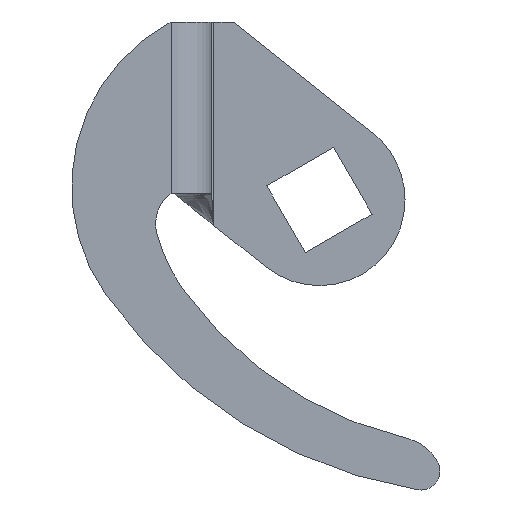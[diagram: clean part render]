
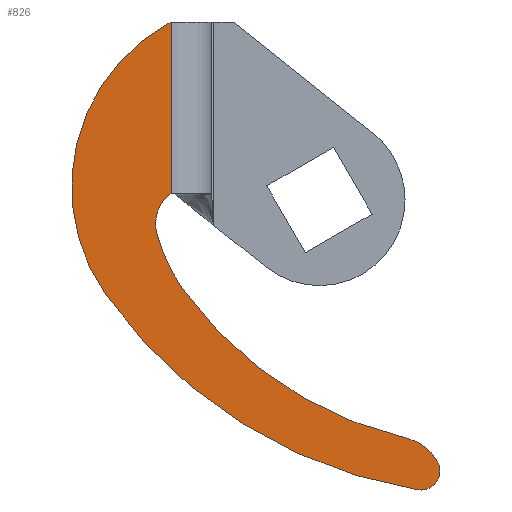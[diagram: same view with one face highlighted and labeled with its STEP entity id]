
A CAD part, front view. The second image highlights one B-rep face of the part: STEP entity #826.
In plain terms, the highlighted planar face has unit normal (0, -1, 0).
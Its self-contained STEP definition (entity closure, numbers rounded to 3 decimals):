
#7 = EDGE_CURVE ( 'NONE', #72, #220, #650, .T. ) ;
#16 = ORIENTED_EDGE ( 'NONE', *, *, #940, .T. ) ;
#27 = CARTESIAN_POINT ( 'NONE',  ( 0.516, -22., -17.189 ) ) ;
#47 = ORIENTED_EDGE ( 'NONE', *, *, #280, .T. ) ;
#61 = CARTESIAN_POINT ( 'NONE',  ( -25.75, -22., 12. ) ) ;
#63 = CARTESIAN_POINT ( 'NONE',  ( -21.5, -22., 30. ) ) ;
#65 = AXIS2_PLACEMENT_3D ( 'NONE', #455, #71, #793 ) ;
#71 = DIRECTION ( 'NONE',  ( 0., 1., 0. ) ) ;
#72 = VERTEX_POINT ( 'NONE', #542 ) ;
#75 = CARTESIAN_POINT ( 'NONE',  ( -16.591, -22., 12.662 ) ) ;
#76 = DIRECTION ( 'NONE',  ( 0., -1., 0. ) ) ;
#81 = DIRECTION ( 'NONE',  ( 1., 0., 0. ) ) ;
#87 = DIRECTION ( 'NONE',  ( -1., 0., 0. ) ) ;
#95 = ORIENTED_EDGE ( 'NONE', *, *, #380, .T. ) ;
#126 = VECTOR ( 'NONE', #414, 1000. ) ;
#127 = EDGE_LOOP ( 'NONE', ( #675, #320, #95, #173, #47, #16, #626, #424, #377, #679 ) ) ;
#130 = AXIS2_PLACEMENT_3D ( 'NONE', #694, #703, #710 ) ;
#140 = VERTEX_POINT ( 'NONE', #638 ) ;
#159 = CARTESIAN_POINT ( 'NONE',  ( -27.238, -22., 7.785 ) ) ;
#160 = CIRCLE ( 'NONE', #772, 2. ) ;
#162 = CIRCLE ( 'NONE', #281, 50. ) ;
#169 = EDGE_CURVE ( 'NONE', #220, #769, #673, .T. ) ;
#170 = DIRECTION ( 'NONE',  ( 1., 0., 0. ) ) ;
#172 = CIRCLE ( 'NONE', #437, 2. ) ;
#173 = ORIENTED_EDGE ( 'NONE', *, *, #983, .F. ) ;
#175 = CARTESIAN_POINT ( 'NONE',  ( -32.612, -22., 1.355 ) ) ;
#210 = CARTESIAN_POINT ( 'NONE',  ( -23.366, -22., 8.788 ) ) ;
#211 = DIRECTION ( 'NONE',  ( 0., 1., 0. ) ) ;
#213 = DIRECTION ( 'NONE',  ( -1., 0., 0. ) ) ;
#220 = VERTEX_POINT ( 'NONE', #159 ) ;
#235 = LINE ( 'NONE', #797, #126 ) ;
#241 = AXIS2_PLACEMENT_3D ( 'NONE', #63, #412, #170 ) ;
#274 = CARTESIAN_POINT ( 'NONE',  ( 2.516, -22., -17.189 ) ) ;
#277 = VERTEX_POINT ( 'NONE', #61 ) ;
#280 = EDGE_CURVE ( 'NONE', #524, #657, #659, .T. ) ;
#281 = AXIS2_PLACEMENT_3D ( 'NONE', #634, #1012, #448 ) ;
#284 = CARTESIAN_POINT ( 'NONE',  ( 0.194, -22., -19.163 ) ) ;
#320 = ORIENTED_EDGE ( 'NONE', *, *, #169, .T. ) ;
#363 = VERTEX_POINT ( 'NONE', #274 ) ;
#377 = ORIENTED_EDGE ( 'NONE', *, *, #642, .T. ) ;
#380 = EDGE_CURVE ( 'NONE', #769, #277, #1026, .T. ) ;
#402 = DIRECTION ( 'NONE',  ( 0., -1., 0. ) ) ;
#412 = DIRECTION ( 'NONE',  ( 0., -1., 0. ) ) ;
#414 = DIRECTION ( 'NONE',  ( 0., 0., -1. ) ) ;
#424 = ORIENTED_EDGE ( 'NONE', *, *, #917, .T. ) ;
#427 = DIRECTION ( 'NONE',  ( 1., 0., 0. ) ) ;
#437 = AXIS2_PLACEMENT_3D ( 'NONE', #27, #402, #729 ) ;
#448 = DIRECTION ( 'NONE',  ( 1., 0., 0. ) ) ;
#453 = CARTESIAN_POINT ( 'NONE',  ( 2.274, -22., -16.235 ) ) ;
#455 = CARTESIAN_POINT ( 'NONE',  ( 8.036, -22., 25.218 ) ) ;
#459 = AXIS2_PLACEMENT_3D ( 'NONE', #210, #211, #213 ) ;
#472 = CARTESIAN_POINT ( 'NONE',  ( -2.12, -22., -18.62 ) ) ;
#487 = CARTESIAN_POINT ( 'NONE',  ( 0.516, -22., -17.189 ) ) ;
#502 = AXIS2_PLACEMENT_3D ( 'NONE', #75, #76, #81 ) ;
#513 = AXIS2_PLACEMENT_3D ( 'NONE', #472, #861, #811 ) ;
#524 = VERTEX_POINT ( 'NONE', #1022 ) ;
#536 = PLANE ( 'NONE',  #241 ) ;
#537 = DIRECTION ( 'NONE',  ( 0., -1., 0. ) ) ;
#542 = CARTESIAN_POINT ( 'NONE',  ( -24.557, -22., 2.031 ) ) ;
#626 = ORIENTED_EDGE ( 'NONE', *, *, #877, .T. ) ;
#634 = CARTESIAN_POINT ( 'NONE',  ( 8.239, -22., 30.186 ) ) ;
#638 = CARTESIAN_POINT ( 'NONE',  ( -0.992, -22., -13.749 ) ) ;
#639 = CARTESIAN_POINT ( 'NONE',  ( -27.366, -22., 8.788 ) ) ;
#642 = EDGE_CURVE ( 'NONE', #763, #140, #884, .T. ) ;
#650 = CIRCLE ( 'NONE', #888, 17.5 ) ;
#657 = VERTEX_POINT ( 'NONE', #175 ) ;
#659 = CIRCLE ( 'NONE', #502, 19.609 ) ;
#673 = CIRCLE ( 'NONE', #130, 4. ) ;
#675 = ORIENTED_EDGE ( 'NONE', *, *, #7, .T. ) ;
#679 = ORIENTED_EDGE ( 'NONE', *, *, #842, .T. ) ;
#694 = CARTESIAN_POINT ( 'NONE',  ( -23.366, -22., 8.788 ) ) ;
#703 = DIRECTION ( 'NONE',  ( 0., 1., 0. ) ) ;
#710 = DIRECTION ( 'NONE',  ( -1., 0., 0. ) ) ;
#713 = CARTESIAN_POINT ( 'NONE',  ( -10.297, -22., 12.175 ) ) ;
#729 = DIRECTION ( 'NONE',  ( 1., 0., 0. ) ) ;
#746 = VERTEX_POINT ( 'NONE', #284 ) ;
#763 = VERTEX_POINT ( 'NONE', #453 ) ;
#769 = VERTEX_POINT ( 'NONE', #639 ) ;
#772 = AXIS2_PLACEMENT_3D ( 'NONE', #487, #537, #427 ) ;
#793 = DIRECTION ( 'NONE',  ( -1., 0., 0. ) ) ;
#797 = CARTESIAN_POINT ( 'NONE',  ( -25.75, -22., 30. ) ) ;
#805 = FACE_OUTER_BOUND ( 'NONE', #127, .T. ) ;
#811 = DIRECTION ( 'NONE',  ( 1., 0., 0. ) ) ;
#826 = ADVANCED_FACE ( 'NONE', ( #805 ), #536, .T. ) ;
#842 = EDGE_CURVE ( 'NONE', #140, #72, #849, .T. ) ;
#849 = CIRCLE ( 'NONE', #65, 40. ) ;
#861 = DIRECTION ( 'NONE',  ( 0., -1., 0. ) ) ;
#877 = EDGE_CURVE ( 'NONE', #746, #363, #172, .T. ) ;
#884 = CIRCLE ( 'NONE', #513, 5. ) ;
#888 = AXIS2_PLACEMENT_3D ( 'NONE', #713, #981, #87 ) ;
#917 = EDGE_CURVE ( 'NONE', #363, #763, #160, .T. ) ;
#940 = EDGE_CURVE ( 'NONE', #657, #746, #162, .T. ) ;
#981 = DIRECTION ( 'NONE',  ( 0., 1., 0. ) ) ;
#983 = EDGE_CURVE ( 'NONE', #524, #277, #235, .T. ) ;
#1012 = DIRECTION ( 'NONE',  ( 0., -1., 0. ) ) ;
#1022 = CARTESIAN_POINT ( 'NONE',  ( -25.75, -22., 30. ) ) ;
#1026 = CIRCLE ( 'NONE', #459, 4. ) ;
